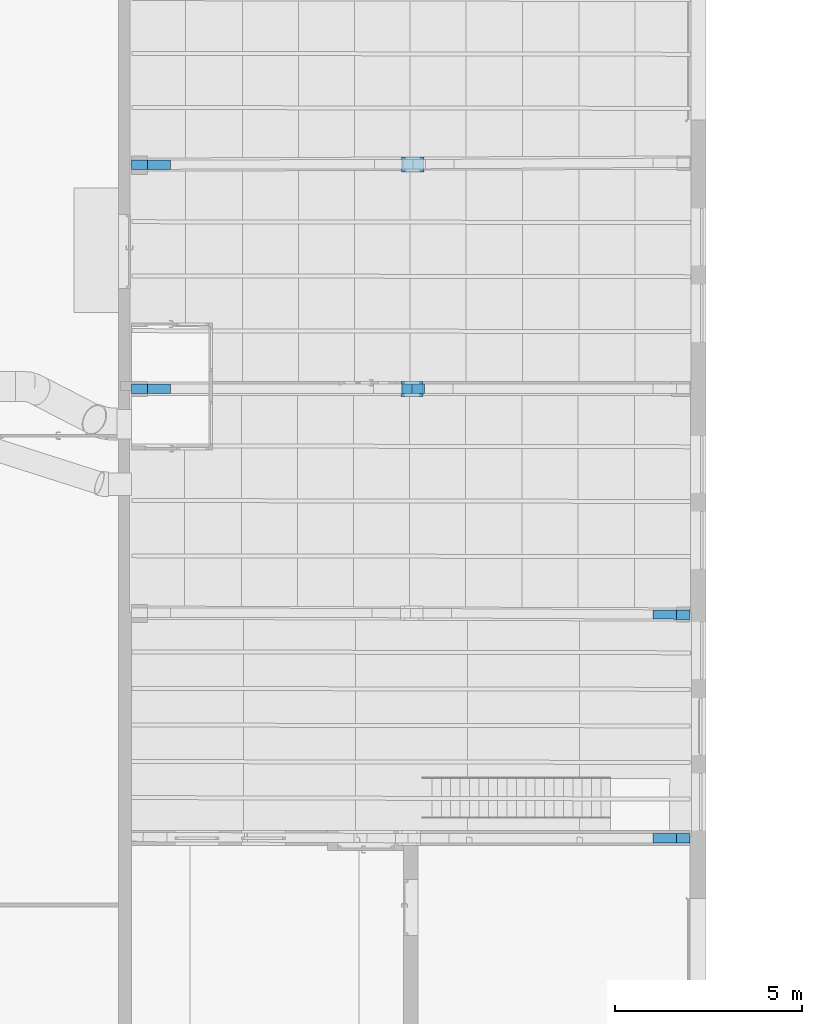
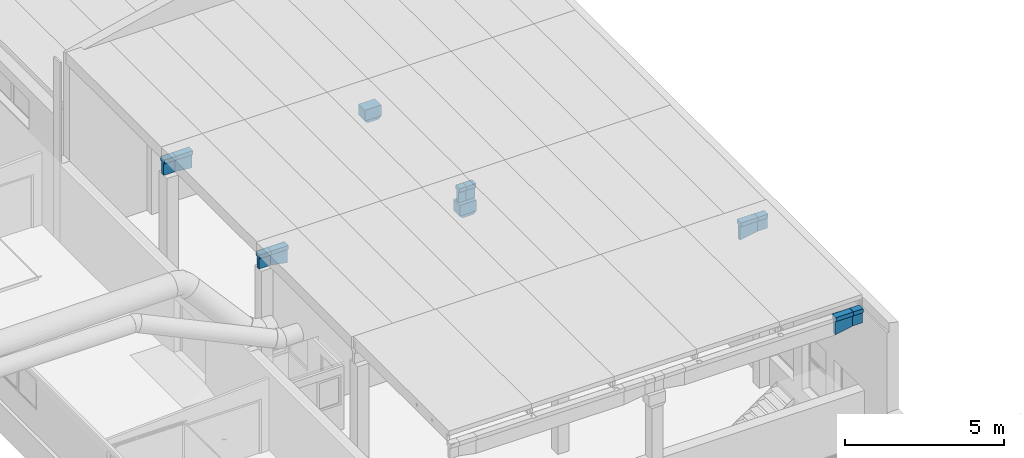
# One storey, part 221 of 301: 14 building element parts, 7 elements without a shape of their own.
"""IFC2X3 building model written with IfcOpenShell, lengths in millimetres."""

from ifc_helpers import new_model, entity, si_unit, converted_unit, derived_unit, money_unit, direction, frame, origin_with_axes, place, context, subcontext, project, spatial, faceted_brep, material, type_object, element, aggregate, save


model = new_model("IFC2X3")

# Units and contexts
model_context = context("Model", 3, precision=0.01, world=origin_with_axes(), true_north=direction((0.0, 1.0)))
body_context = subcontext(model_context, "Body", "Model", "MODEL_VIEW")
ifc_project = project(units=[si_unit("LENGTHUNIT", "METRE", prefix="MILLI"), si_unit("AREAUNIT", "SQUARE_METRE"), si_unit("VOLUMEUNIT", "CUBIC_METRE"), converted_unit("PLANEANGLEUNIT", "DEGREE", entity("IfcPlaneAngleMeasure", 0.0174532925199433), si_unit("PLANEANGLEUNIT", "RADIAN"), dimensions=[0, 0, 0, 0, 0, 0, 0]), money_unit("EUR"), converted_unit("TIMEUNIT", "Year", entity("IfcTimeMeasure", 31557600.0), si_unit("TIMEUNIT", "SECOND"), dimensions=[0, 0, 1, 0, 0, 0, 0]), si_unit("MASSUNIT", "GRAM", prefix="KILO"), si_unit("THERMODYNAMICTEMPERATUREUNIT", "DEGREE_CELSIUS"), si_unit("LUMINOUSINTENSITYUNIT", "LUMEN"), si_unit("ENERGYUNIT", "JOULE", prefix="MEGA"), derived_unit("THERMALCONDUCTANCEUNIT", [(si_unit("POWERUNIT", "WATT"), 1), (si_unit("LENGTHUNIT", "METRE"), -1), (si_unit("THERMODYNAMICTEMPERATUREUNIT", "KELVIN"), -1)]), derived_unit("SPECIFICHEATCAPACITYUNIT", [(si_unit("ENERGYUNIT", "JOULE"), 1), (si_unit("MASSUNIT", "GRAM", prefix="KILO"), -1), (si_unit("THERMODYNAMICTEMPERATUREUNIT", "KELVIN"), -1)]), derived_unit("MASSDENSITYUNIT", [(si_unit("MASSUNIT", "GRAM", prefix="KILO"), 1), (si_unit("VOLUMEUNIT", "CUBIC_METRE"), -1)])], contexts=[model_context])

# Site, building, storey
site_placement = place(None, frame((0.0, 0.0, 8650.0), z_axis=(0.0, 0.0, 1.0), x_axis=(1.0, 0.0, 0.0)))
site = spatial("IfcSite", under=ifc_project, at=site_placement, Name="43301:001:0844", CompositionType="ELEMENT")
building_placement = place(site_placement, origin_with_axes())
building = spatial("IfcBuilding", under=site, at=building_placement, Name="Kuressaare Ametikooli tuulikute mehaanikute õppekorpus", CompositionType="ELEMENT")
storey_placement = place(building_placement, origin_with_axes())
storey = spatial("IfcBuildingStorey", under=building, at=storey_placement, Name="1.korrus", CompositionType="ELEMENT", Elevation=0.0)

# Column, building element parts
column_type = type_object("IfcColumnType", Name="Various Structures - 3 Segments - 600 x 400 x 5950 (5433+102+415)", PredefinedType="NOTDEFINED")
column_1_placement = place(storey_placement, frame((95771.85418875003, 50085.18157357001, 130.0), z_axis=(0.0, 0.0, 1.0), x_axis=(1.0, 0.0, 0.0)))
column_1 = element("IfcColumn", 1, at=column_1_placement, inside=storey, type_object=column_type)
ifc_material_1 = material(Name="GENEERILINE - KONSTRUKTRIOON")
building_element_part_1_placement = place(column_1_placement, origin_with_axes())
building_element_part_1 = element("IfcBuildingElementPart", 2, at=building_element_part_1_placement, material=ifc_material_1, Name="GENEERILINE - KONSTRUKTRIOON", context=body_context, shape_type="Brep", body=[
    faceted_brep([(299.9999999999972, -200.0000000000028, 5535.0), (-299.9999999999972, -200.0000000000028, 5535.0), (-200.0000000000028, -200.0000000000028, 5432.979557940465), (200.0000000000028, -200.0000000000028, 5432.979557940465), (299.9999999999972, 200.0000000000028, 5535.0), (-299.9999999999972, 200.0000000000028, 5535.0), (-200.0000000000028, 200.0000000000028, 5432.979557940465), (200.0000000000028, 200.0000000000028, 5432.979557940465)], [[[0, 1, 2, 3]], [[4, 5, 1, 0]], [[1, 5, 6, 2]], [[7, 3, 2, 6]], [[4, 0, 3, 7]], [[5, 4, 7, 6]]]),
])
building_element_part_2_placement = place(column_1_placement, origin_with_axes())
building_element_part_2 = element("IfcBuildingElementPart", 3, at=building_element_part_2_placement, material=ifc_material_1, Name="GENEERILINE - KONSTRUKTRIOON", context=body_context, shape_type="Brep", body=[
    faceted_brep([(-299.9999999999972, -200.0000000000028, 5950.0), (-299.9999999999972, -200.0000000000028, 5535.0), (299.9999999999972, -200.0000000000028, 5535.0), (299.9999999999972, -200.0000000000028, 5950.0), (-299.9999999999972, 200.0000000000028, 5950.0), (-299.9999999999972, 200.0000000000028, 5535.0), (299.9999999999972, 200.0000000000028, 5535.0), (299.9999999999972, 200.0000000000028, 5950.0)], [[[0, 1, 2, 3]], [[4, 5, 1, 0]], [[2, 1, 5, 6]], [[3, 2, 6, 7]], [[4, 0, 3, 7]], [[7, 6, 5, 4]]]),
])
aggregate(column_1, [building_element_part_1, building_element_part_2])

column_2_placement = place(storey_placement, frame((95793.59130859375, 56096.24933209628, 130.0), z_axis=(0.0, 0.0, 1.0), x_axis=(1.0, 0.0, 0.0)))
column_2 = element("IfcColumn", 4, at=column_2_placement, inside=storey, type_object=column_type)
building_element_part_3_placement = place(column_2_placement, origin_with_axes())
building_element_part_3 = element("IfcBuildingElementPart", 5, at=building_element_part_3_placement, material=ifc_material_1, Name="GENEERILINE - KONSTRUKTRIOON", context=body_context, shape_type="Brep", body=[
    faceted_brep([(299.9999999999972, -200.0000000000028, 5535.0), (-299.9999999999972, -200.0000000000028, 5535.0), (-200.0000000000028, -200.0000000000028, 5432.979557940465), (200.0000000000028, -200.0000000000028, 5432.979557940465), (299.9999999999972, 200.0000000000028, 5535.0), (-299.9999999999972, 200.0000000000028, 5535.0), (-200.0000000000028, 200.0000000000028, 5432.979557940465), (200.0000000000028, 200.0000000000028, 5432.979557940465)], [[[0, 1, 2, 3]], [[4, 5, 1, 0]], [[1, 5, 6, 2]], [[7, 3, 2, 6]], [[4, 0, 3, 7]], [[5, 4, 7, 6]]]),
])
building_element_part_4_placement = place(column_2_placement, origin_with_axes())
building_element_part_4 = element("IfcBuildingElementPart", 6, at=building_element_part_4_placement, material=ifc_material_1, Name="GENEERILINE - KONSTRUKTRIOON", context=body_context, shape_type="Brep", body=[
    faceted_brep([(-299.9999999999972, -200.0000000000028, 5950.0), (-299.9999999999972, -200.0000000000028, 5535.0), (299.9999999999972, -200.0000000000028, 5535.0), (299.9999999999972, -200.0000000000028, 5950.0), (-299.9999999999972, 200.0000000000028, 5950.0), (-299.9999999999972, 200.0000000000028, 5535.0), (299.9999999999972, 200.0000000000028, 5535.0), (299.9999999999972, 200.0000000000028, 5950.0)], [[[0, 1, 2, 3]], [[4, 5, 1, 0]], [[2, 1, 5, 6]], [[3, 2, 6, 7]], [[4, 0, 3, 7]], [[7, 6, 5, 4]]]),
])
aggregate(column_2, [building_element_part_3, building_element_part_4])

# Beam, building element parts
beam_type_1 = type_object("IfcBeamType", Name="Various Structures - 5 Segments - 250 x 700 x 7499 (338+766+5404+631+361)", PredefinedType="NOTDEFINED")
beam_1_placement = place(storey_placement, frame((95728.83666082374, 44073.08587643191, 6660.0), z_axis=(0.0, 0.0, 1.0), x_axis=(-0.005544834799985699, -0.9999846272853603, 0.0)))
beam_1 = element("IfcBeam", 7, at=beam_1_placement, inside=storey, type_object=beam_type_1)
ifc_material_2 = material(Name="Raudbetoon")
building_element_part_5_placement = place(beam_1_placement, origin_with_axes())
building_element_part_5 = element("IfcBuildingElementPart", 8, at=building_element_part_5_placement, material=ifc_material_2, Name="Raudbetoon", context=body_context, shape_type="Brep", body=[
    faceted_brep([(-125.0052048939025, 6665.076092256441, 0.0), (-125.0050883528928, 6507.404536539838, 0.0), (-111.5554368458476, 6507.404536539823, 0.0), (-112.9145778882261, 7138.090759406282, 0.0), (-125.0055545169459, 7138.090759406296, 0.0), (-125.0054379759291, 6980.419203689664, 0.0), (-125.004935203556, 6507.404536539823, -75.00000000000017), (107.6036162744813, 6507.404536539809, 0.0), (107.6036036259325, 6507.404536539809, -4.176709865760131), (-111.5554241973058, 6507.404536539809, -4.176709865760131), (-125.0047820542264, 6507.404536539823, -150.0000000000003), (-65.00000000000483, 6507.404536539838, -164.4011476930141), (-65.00000000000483, 6507.404536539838, -700.0000000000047), (64.99999999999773, 6507.404536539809, -700.0000000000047), (64.99999999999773, 6507.404536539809, -164.4011476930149), (125.0047820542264, 6507.404536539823, -150.0000000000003), (125.004935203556, 6507.404536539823, -75.00000000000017), (125.0050883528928, 6507.404536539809, 0.0), (-112.9145652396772, 7138.090759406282, -4.176709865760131), (106.244462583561, 7138.090759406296, -4.176709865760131), (106.244475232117, 7138.090759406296, 0.0), (125.0055545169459, 7138.090759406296, 0.0), (125.0054185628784, 7138.09075940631, -75.00000000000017), (125.0052826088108, 7138.09075940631, -150.0000000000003), (64.99999999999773, 7138.090759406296, -164.4012678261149), (64.99999999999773, 7138.090759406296, -580.0000001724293), (-64.99999999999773, 7138.090759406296, -580.0000001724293), (-64.99999999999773, 7138.090759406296, -164.4012678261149), (-125.0052826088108, 7138.090759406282, -150.0000000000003), (-125.0054185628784, 7138.090759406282, -75.00000000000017), (-125.0051768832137, 6822.747647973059, -75.00000000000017), (-125.0049071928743, 6665.076092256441, -150.0000000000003), (-125.00515747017, 6980.419203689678, -150.0000000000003), (125.0051574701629, 6980.419203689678, -150.0000000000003), (125.0049071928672, 6665.076092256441, -150.0000000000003), (125.0052048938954, 6665.076092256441, 0.0), (125.0054379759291, 6980.419203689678, 0.0), (125.0051768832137, 6822.747647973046, -75.00000000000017)], [[[0, 1, 2, 3, 4, 5]], [[1, 0, 6]], [[7, 8, 9, 2, 1, 6, 10, 11, 12, 13, 14, 15, 16, 17]], [[2, 9, 18, 3]], [[3, 18, 19, 20, 21, 22, 23, 24, 25, 26, 27, 28, 29, 4]], [[5, 4, 29]], [[0, 5, 30]], [[0, 30, 31, 6]], [[19, 8, 7, 20]], [[9, 8, 19, 18]], [[10, 6, 31]], [[32, 28, 27, 11, 10, 31]], [[11, 27, 26, 12]], [[13, 12, 26, 25]], [[13, 25, 24, 14]], [[14, 24, 23, 33, 34, 15]], [[15, 34, 16]], [[17, 16, 35]], [[36, 21, 20, 7, 17, 35]], [[36, 22, 21]], [[33, 23, 22]], [[32, 29, 28]], [[5, 29, 32, 30]], [[31, 30, 32]], [[34, 33, 37]], [[34, 37, 35, 16]], [[35, 37, 36]], [[33, 22, 36, 37]]]),
])
building_element_part_6_placement = place(beam_1_placement, origin_with_axes())
building_element_part_6 = element("IfcBuildingElementPart", 9, at=building_element_part_6_placement, material=ifc_material_2, Name="Raudbetoon", context=body_context, shape_type="Brep", body=[
    faceted_brep([(-112.9145778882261, 7138.090759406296, 0.0), (-113.6905349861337, 7498.160418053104, 0.0), (-125.0055545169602, 7498.097677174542, 0.0), (-125.0055545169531, 7138.09075940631, 0.0), (-112.9145652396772, 7138.090759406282, -4.176709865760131), (-113.6905223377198, 7498.160418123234, -4.176709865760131), (-65.00000000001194, 7498.430403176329, -164.4012678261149), (-125.005282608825, 7498.097678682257, -150.0000000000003), (4.796163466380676e-09, 7498.790822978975, -4.176709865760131), (3.588240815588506e-09, 7498.790822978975, -580.0000000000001), (-65.00000000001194, 7498.430403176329, -580.0000000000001), (-125.0052826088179, 7138.090759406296, -150.0000000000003), (106.244475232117, 7138.090759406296, 0.0), (106.244462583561, 7138.090759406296, -4.176709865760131), (-65.00000000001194, 7138.09075940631, -164.4012678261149), (-65.00000000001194, 7138.09075940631, -580.0000000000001), (64.99999999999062, 7138.090759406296, -580.0000000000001), (64.99999999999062, 7138.090759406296, -164.4012678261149), (125.0052826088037, 7138.09075940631, -150.0000000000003), (125.0055545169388, 7138.090759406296, 0.0), (105.4671469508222, 7498.790822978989, -4.176709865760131), (64.99999999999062, 7498.790822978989, -580.0000000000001), (105.4671595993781, 7498.790822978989, 0.0), (125.0055545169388, 7498.790822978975, 0.0), (125.0052826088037, 7498.790822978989, -150.0000000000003), (64.99999999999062, 7498.790822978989, -164.4012678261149)], [[[0, 1, 2, 3]], [[4, 5, 1, 0]], [[6, 7, 2, 1, 5, 8, 9, 10]], [[3, 2, 7, 11]], [[12, 13, 4, 0, 3, 11, 14, 15, 16, 17, 18, 19]], [[20, 8, 5, 4, 13]], [[11, 7, 6, 14]], [[21, 9, 8, 20, 22, 23, 24, 25]], [[15, 10, 9, 21, 16]], [[14, 6, 10, 15]], [[20, 13, 12, 22]], [[25, 17, 16, 21]], [[24, 18, 17, 25]], [[23, 19, 18, 24]], [[19, 23, 22, 12]]]),
])
aggregate(beam_1, [building_element_part_5, building_element_part_6])

beam_type_2 = type_object("IfcBeamType", Name="Various Structures - 5 Segments - 250 x 700 x 7563 (338+766+5468+631+361)", PredefinedType="NOTDEFINED")
beam_2_placement = place(storey_placement, frame((95664.04856966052, 38039.92828517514, 6660.0), z_axis=(0.0, 0.0, 1.0), x_axis=(0.0, -1.0, 0.0)))
beam_2 = element("IfcBeam", 10, at=beam_2_placement, inside=storey, type_object=beam_type_2)
building_element_part_7_placement = place(beam_2_placement, origin_with_axes())
building_element_part_7 = element("IfcBuildingElementPart", 11, at=building_element_part_7_placement, material=ifc_material_2, Name="Raudbetoon", context=body_context, shape_type="Brep", body=[
    faceted_brep([(64.99999999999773, 7202.763573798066, -164.4012678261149), (64.99999999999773, 7202.763573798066, -580.0000000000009), (-64.99999999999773, 7202.763573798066, -580.0000000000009), (-64.99999999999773, 7202.763573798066, -164.4012678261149), (-125.0052826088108, 7202.763573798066, -150.0000000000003), (-125.0054185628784, 7202.763573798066, -75.00000000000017), (-125.0055545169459, 7202.763573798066, 0.0), (-110.366298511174, 7202.763573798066, 0.0), (-110.3662831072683, 7202.763573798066, -5.086558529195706), (108.79275716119, 7202.763573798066, -5.086558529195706), (108.7927725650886, 7202.763573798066, 0.0), (125.0055545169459, 7202.763573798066, 0.0), (125.0054185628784, 7202.763573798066, -75.00000000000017), (125.0052826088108, 7202.763573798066, -150.0000000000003), (64.99999999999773, 6572.077350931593, -700.0000000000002), (64.99999999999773, 7199.287448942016, -580.0000000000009), (64.99999999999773, 6572.077350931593, -164.4011476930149), (-64.99999999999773, 7199.287448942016, -580.0000000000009), (-64.99999999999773, 6572.077350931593, -700.0000000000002), (-64.99999999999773, 6572.077350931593, -164.4011476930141), (-125.0049071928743, 6729.748906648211, -150.0000000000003), (-125.0051574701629, 7045.092018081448, -150.0000000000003), (-125.0047820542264, 6572.077350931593, -150.0000000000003), (-125.0054379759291, 7045.092018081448, 0.0), (-125.0052048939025, 6729.748906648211, 0.0), (-125.0050883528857, 6572.077350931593, 0.0), (-111.741958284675, 6572.077350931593, 0.0), (-111.7419428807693, 6572.077350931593, -5.086558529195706), (107.4170973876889, 6572.077350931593, -5.086558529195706), (107.4171127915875, 6572.077350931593, 0.0), (125.0052048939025, 6729.748906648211, 0.0), (125.0054379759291, 7045.092018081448, 0.0), (125.0050883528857, 6572.077350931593, 0.0), (125.0051574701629, 7045.092018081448, -150.0000000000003), (125.0047820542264, 6572.077350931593, -150.0000000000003), (125.0049071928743, 6729.748906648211, -150.0000000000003), (125.004935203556, 6572.077350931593, -75.00000000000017), (-125.004935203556, 6572.077350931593, -75.00000000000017), (-125.0051768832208, 6887.420462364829, -75.00000000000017), (125.0051768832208, 6887.420462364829, -75.00000000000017)], [[[0, 1, 2, 3, 4, 5, 6, 7, 8, 9, 10, 11, 12, 13]], [[14, 15, 1, 0, 16]], [[15, 17, 2, 1]], [[2, 17, 18, 19, 3]], [[20, 21, 4, 3, 19, 22]], [[4, 21, 5]], [[5, 23, 6]], [[23, 24, 25, 26, 7, 6]], [[7, 26, 27, 8]], [[8, 27, 28, 9]], [[10, 9, 28, 29]], [[30, 31, 11, 10, 29, 32]], [[11, 31, 12]], [[12, 33, 13]], [[34, 16, 0, 13, 33, 35]], [[14, 18, 17, 15]], [[19, 18, 14, 16, 34, 36, 32, 29, 28, 27, 26, 25, 37, 22]], [[21, 20, 38]], [[20, 22, 37]], [[38, 23, 5, 21]], [[38, 24, 23]], [[37, 25, 24]], [[31, 30, 39]], [[30, 32, 36]], [[39, 33, 12, 31]], [[39, 35, 33]], [[36, 34, 35]], [[37, 24, 38, 20]], [[36, 35, 39, 30]]]),
])
building_element_part_8_placement = place(beam_2_placement, origin_with_axes())
building_element_part_8 = element("IfcBuildingElementPart", 12, at=building_element_part_8_placement, material=ifc_material_2, Name="Raudbetoon", context=body_context, shape_type="Brep", body=[
    faceted_brep([(-125.0055545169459, 7563.463637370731, 0.0), (4.781952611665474e-09, 7563.463637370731, 0.0), (-7.176481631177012e-10, 7563.463637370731, -5.086558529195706), (-35.95914207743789, 7563.463637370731, -5.086558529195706), (-35.95914207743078, 7563.463637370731, -25.00013400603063), (125.0055091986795, 7563.463637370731, -25.00013400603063), (125.0052826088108, 7563.463637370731, -150.0000000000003), (64.99999999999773, 7563.463637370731, -164.4012678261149), (64.99999999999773, 7563.463637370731, -580.0000000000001), (-64.99999999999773, 7563.463637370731, -580.0000000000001), (-64.99999999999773, 7563.463637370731, -164.4012678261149), (-125.0052826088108, 7563.463637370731, -150.0000000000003), (109.5276737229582, 7539.687022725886, 0.0), (109.5790141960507, 7563.224622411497, 0.0), (-125.0055545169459, 7202.763573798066, 0.0), (125.0055545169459, 7202.763573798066, 0.0), (125.0055545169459, 7539.779091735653, 0.0), (109.5789987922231, 7563.224622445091, -5.086558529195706), (-35.81732643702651, 7539.622764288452, -5.086558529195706), (109.5294039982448, 7540.487348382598, -5.086558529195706), (-35.83596330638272, 7542.755840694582, -25.00013400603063), (125.0055091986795, 7543.712594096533, -25.00013400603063), (125.0052826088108, 7202.763573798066, -150.0000000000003), (64.99999999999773, 7202.763573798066, -164.4012678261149), (64.99999999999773, 7202.763573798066, -580.0000000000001), (-64.99999999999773, 7202.763573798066, -580.0000000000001), (-64.99999999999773, 7202.763573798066, -164.4012678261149), (-125.0052826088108, 7202.763573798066, -150.0000000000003)], [[[0, 1, 2, 3, 4, 5, 6, 7, 8, 9, 10, 11]], [[12, 13, 1, 0, 14, 15, 16]], [[17, 2, 1, 13]], [[18, 3, 2, 17, 19]], [[20, 4, 3, 18]], [[21, 5, 4, 20]], [[5, 21, 16, 15, 22, 6]], [[22, 23, 7, 6]], [[23, 24, 8, 7]], [[24, 25, 9, 8]], [[25, 26, 10, 9]], [[26, 27, 11, 10]], [[27, 14, 0, 11]], [[17, 13, 12, 19]], [[26, 25, 24, 23, 22, 15, 14, 27]], [[12, 16, 21, 20, 18, 19]]]),
])
aggregate(beam_2, [building_element_part_7, building_element_part_8])

# Beam, building element part
beam_type_3 = type_object("IfcBeamType", Name="Various Structures - 5 Segments - 250 x 700 x 7456 (338+766+5361+631+361)", PredefinedType="NOTDEFINED")
beam_3_placement = place(storey_placement, frame((95771.85418875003, 50085.18157357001, 6660.0), z_axis=(0.0, 0.0, 1.0), x_axis=(2.364312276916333e-05, -0.9999999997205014, 0.0)))
beam_3 = element("IfcBeam", 13, at=beam_3_placement, inside=storey, type_object=beam_type_3)
building_element_part_9_placement = place(beam_3_placement, origin_with_axes())
building_element_part_9 = element("IfcBuildingElementPart", 14, at=building_element_part_9_placement, material=ifc_material_2, Name="Raudbetoon", context=body_context, shape_type="Brep", body=[
    faceted_brep([(-125.0055545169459, 0.0, 0.0), (-111.8219075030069, 0.0, 0.0), (-111.719623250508, 337.7568168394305, 0.0), (-125.0055545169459, 337.7568168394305, 0.0), (107.3366366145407, 0.0, -5.000209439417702), (-111.8218923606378, 0.0, -5.000209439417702), (-125.0052826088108, 0.0, -150.0000000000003), (-65.00000000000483, 0.0, -164.4012678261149), (-65.00000000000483, 0.0, -579.8231697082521), (64.99999999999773, 0.0, -579.8231697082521), (64.99999999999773, 0.0, -164.4012678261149), (125.0052826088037, 0.0, -150.0000000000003), (125.0055545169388, 0.0, 0.0), (107.3366517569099, 0.0, 0.0), (-111.7196081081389, 337.7568168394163, -5.000209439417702), (107.4389208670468, 337.7568168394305, -5.000209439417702), (107.4389360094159, 337.7568168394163, 0.0), (125.0055545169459, 337.7568168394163, 0.0), (125.0052826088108, 337.7568168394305, -150.0000000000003), (64.99999999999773, 337.7568168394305, -164.4012678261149), (64.99999999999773, 337.7568168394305, -579.8231697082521), (-65.00000000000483, 337.7568168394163, -579.8231697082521), (-65.00000000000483, 337.7568168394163, -164.4012678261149), (-125.0052826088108, 337.7568168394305, -150.0000000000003)], [[[0, 1, 2, 3]], [[4, 5, 1, 0, 6, 7, 8, 9, 10, 11, 12, 13]], [[5, 14, 2, 1]], [[14, 15, 16, 17, 18, 19, 20, 21, 22, 23, 3, 2]], [[6, 0, 3, 23]], [[4, 15, 14, 5]], [[7, 6, 23, 22]], [[8, 7, 22, 21]], [[9, 8, 21, 20]], [[10, 9, 20, 19]], [[11, 10, 19, 18]], [[12, 11, 18, 17]], [[17, 16, 13, 12]], [[4, 13, 16, 15]]]),
])
aggregate(beam_3, [building_element_part_9])

# Beam, building element parts
beam_type_4 = type_object("IfcBeamType", Name="Various Structures - 5 Segments - 250 x 700 x 7513 (262+767+5443+621+419)", PredefinedType="NOTDEFINED")
beam_4_placement = place(storey_placement, frame((95771.85418875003, 50085.18157357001, 6660.0), z_axis=(0.0, 0.0, 1.0), x_axis=(0.0006351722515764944, 0.9999997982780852, 0.0)))
beam_4 = element("IfcBeam", 15, at=beam_4_placement, inside=storey, type_object=beam_type_4)
building_element_part_10_placement = place(beam_4_placement, origin_with_axes())
building_element_part_10 = element("IfcBuildingElementPart", 16, at=building_element_part_10_placement, material=ifc_material_2, Name="Raudbetoon", context=body_context, shape_type="Brep", body=[
    faceted_brep([(125.0055545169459, 261.7777961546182, 0.0), (111.7287214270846, 261.7777961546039, 0.0), (111.82190946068, 0.0, 0.0), (125.0055545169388, 0.0, 0.0), (-107.4298265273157, 261.7777961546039, -5.000209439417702), (111.7287062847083, 261.7777961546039, -5.000209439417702), (125.0052826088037, 261.7777961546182, -150.0000000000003), (64.99999999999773, 261.7777961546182, -164.4012678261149), (64.99999999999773, 261.7777961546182, -579.8231697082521), (-65.00000000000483, 261.7777961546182, -579.8231697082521), (-64.99999999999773, 261.7777961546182, -164.4012678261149), (-125.0052826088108, 261.7777961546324, -150.0000000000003), (-125.0055545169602, 261.7777961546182, 0.0), (-107.4298416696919, 261.7777961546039, 0.0), (111.821894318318, 0.0, -5.000209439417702), (-107.3366384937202, 0.0, -5.000209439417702), (-107.3366536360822, 0.0, 0.0), (-125.0055545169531, 0.0, 0.0), (-125.0052826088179, 0.0, -150.0000000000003), (-65.00000000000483, 0.0, -164.4012678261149), (-65.00000000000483, 0.0, -579.8231697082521), (64.99999999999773, 0.0, -579.8231697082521), (64.99999999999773, 0.0, -164.4012678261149), (125.0052826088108, 0.0, -150.0000000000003)], [[[0, 1, 2, 3]], [[4, 5, 1, 0, 6, 7, 8, 9, 10, 11, 12, 13]], [[5, 14, 2, 1]], [[14, 15, 16, 17, 18, 19, 20, 21, 22, 23, 3, 2]], [[3, 23, 6, 0]], [[4, 15, 14, 5]], [[23, 22, 7, 6]], [[22, 21, 8, 7]], [[21, 20, 9, 8]], [[20, 19, 10, 9]], [[19, 18, 11, 10]], [[18, 17, 12, 11]], [[17, 16, 13, 12]], [[4, 13, 16, 15]]]),
])
building_element_part_11_placement = place(beam_4_placement, origin_with_axes())
building_element_part_11 = element("IfcBuildingElementPart", 17, at=building_element_part_11_placement, material=ifc_material_2, Name="Raudbetoon", context=body_context, shape_type="Brep", body=[
    faceted_brep([(-64.99999999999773, 7093.794226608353, -580.000000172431), (-64.99999999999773, 7093.794226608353, -164.4012678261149), (-125.0052826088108, 7093.794226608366, -150.0000000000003), (-125.0054185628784, 7093.794226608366, -75.00000000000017), (-125.0055545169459, 7093.794226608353, 0.0), (-109.8619126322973, 7093.794226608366, 0.0), (-109.861897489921, 7093.794226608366, -5.000209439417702), (109.296635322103, 7093.794226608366, -5.000209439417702), (109.2966504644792, 7093.794226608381, 0.0), (125.0055545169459, 7093.794226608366, 0.0), (125.0054185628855, 7093.794226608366, -75.00000000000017), (125.0052826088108, 7093.794226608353, -150.0000000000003), (64.99999999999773, 7093.794226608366, -164.4012678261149), (64.99999999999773, 7093.794226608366, -580.000000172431), (-65.00000000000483, 6472.408602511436, -164.4011476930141), (-64.99999999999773, 7093.05788654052, -580.0000000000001), (-64.99999999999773, 7093.05788654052, -580.1421998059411), (-65.00000000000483, 6472.408602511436, -700.0000000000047), (-125.0051574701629, 6938.447820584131, -150.0000000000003), (-125.0047820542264, 6472.40860251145, -150.0000000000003), (-125.0049071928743, 6627.755008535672, -150.0000000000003), (-125.0054379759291, 6938.447820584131, 0.0), (-109.6407108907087, 6472.40860251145, 0.0), (-125.0052048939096, 6627.755008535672, 0.0), (-125.0050883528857, 6472.408602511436, 0.0), (-109.6406957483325, 6472.408602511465, -5.000209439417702), (109.5178370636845, 6472.40860251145, -5.000209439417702), (109.5178522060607, 6472.40860251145, 0.0), (125.0054379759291, 6938.447820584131, 0.0), (125.0050883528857, 6472.40860251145, 0.0), (125.0052048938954, 6627.755008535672, 0.0), (125.0051574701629, 6938.447820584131, -150.0000000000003), (64.99999999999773, 6472.40860251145, -164.4011476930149), (125.0049071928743, 6627.755008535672, -150.0000000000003), (125.0047820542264, 6472.40860251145, -150.0000000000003), (64.99999999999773, 7093.140366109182, -579.9998225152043), (64.99999999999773, 6472.40860251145, -700.0000000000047), (64.99999999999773, 6472.436987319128, -699.994518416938), (-54.50532871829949, 7093.064459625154, -579.9998225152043), (-54.50532877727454, 7093.064552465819, -580.1407353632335), (-54.11110526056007, 6472.408602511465, -700.0000000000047), (-125.0049352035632, 6472.408602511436, -75.00000000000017), (-54.11110526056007, 6472.40860251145, -699.9853799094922), (64.95290785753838, 6472.40860251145, -700.000000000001), (125.004935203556, 6472.40860251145, -75.00000000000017), (-125.0051768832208, 6783.101414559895, -75.00000000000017), (125.0051768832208, 6783.101414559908, -75.00000000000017)], [[[0, 1, 2, 3, 4, 5, 6, 7, 8, 9, 10, 11, 12, 13]], [[14, 1, 0, 15, 16, 17]], [[18, 2, 1, 14, 19, 20]], [[18, 3, 2]], [[21, 4, 3]], [[22, 5, 4, 21, 23, 24]], [[25, 6, 5, 22]], [[26, 7, 6, 25]], [[27, 8, 7, 26]], [[28, 9, 8, 27, 29, 30]], [[28, 10, 9]], [[31, 11, 10]], [[32, 12, 11, 31, 33, 34]], [[35, 13, 12, 32, 36, 37]], [[15, 0, 13, 35, 38]], [[38, 39, 16, 15]], [[17, 16, 39, 40]], [[24, 41, 19, 14, 17, 40, 42, 43, 36, 32, 34, 44, 29, 27, 26, 25, 22]], [[41, 20, 19]], [[18, 20, 45]], [[21, 3, 18, 45]], [[21, 45, 23]], [[41, 24, 23]], [[30, 29, 44]], [[46, 28, 30]], [[46, 31, 10, 28]], [[46, 33, 31]], [[33, 44, 34]], [[37, 36, 43]], [[42, 38, 35, 37, 43]], [[42, 40, 39, 38]], [[45, 20, 41, 23]], [[44, 33, 46, 30]]]),
])
building_element_part_12_placement = place(beam_4_placement, origin_with_axes())
building_element_part_12 = element("IfcBuildingElementPart", 18, at=building_element_part_12_placement, material=ifc_material_2, Name="Raudbetoon", context=body_context, shape_type="Brep", body=[
    faceted_brep([(125.0052826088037, 7093.794226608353, -150.0000000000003), (125.0052826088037, 7513.178657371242, -150.0000000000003), (125.0055545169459, 7513.17865754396, 0.0), (125.0055545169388, 7093.794226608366, 0.0), (64.99999999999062, 7093.794226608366, -164.4012678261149), (64.99999999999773, 7513.140543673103, -164.4012678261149), (-23.7004440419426, 7513.084203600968, -5.000209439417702), (-23.70044404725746, 7513.084203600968, 0.0), (64.99999999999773, 7513.140543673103, -580.0000000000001), (-64.99999999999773, 7513.057971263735, -580.0000000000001), (-64.99999999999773, 7513.057971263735, -164.4012678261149), (-125.0052826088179, 7513.019857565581, -150.0000000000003), (-125.0055545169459, 7513.019857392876, 0.0), (-110.0111525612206, 7513.029381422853, 0.0), (-110.0111374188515, 7513.02938143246, -5.000209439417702), (109.1473741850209, 7513.131494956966, 0.0), (109.2966504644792, 7093.794226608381, 0.0), (109.296635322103, 7093.794226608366, -5.000209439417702), (-109.861897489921, 7093.794226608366, -5.000209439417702), (-109.8619126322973, 7093.794226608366, 0.0), (-125.0055545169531, 7093.794226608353, 0.0), (-125.0052826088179, 7093.794226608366, -150.0000000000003), (-65.00000000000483, 7093.794226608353, -164.4012678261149), (-65.00000000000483, 7093.794226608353, -580.0000000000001), (64.99999999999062, 7093.794226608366, -580.0000000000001), (109.1473590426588, 7513.13149495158, -5.000209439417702)], [[[0, 1, 2, 3]], [[4, 5, 1, 0]], [[6, 7, 2, 1, 5, 8, 9, 10, 11, 12, 13, 14]], [[3, 2, 7, 15, 16]], [[16, 17, 18, 19, 20, 21, 22, 23, 24, 4, 0, 3]], [[24, 8, 5, 4]], [[15, 7, 6, 25]], [[23, 9, 8, 24]], [[22, 10, 9, 23]], [[21, 11, 10, 22]], [[20, 12, 11, 21]], [[19, 13, 12, 20]], [[18, 14, 13, 19]], [[25, 6, 14, 18, 17]], [[15, 25, 17, 16]]]),
])
aggregate(beam_4, [building_element_part_10, building_element_part_11, building_element_part_12])

beam_type_5 = type_object("IfcBeamType", Name="Various Structures - 5 Segments - 250 x 700 x 7535 (262+767+5466+621+419)", PredefinedType="NOTDEFINED")
beam_5_placement = place(storey_placement, frame((95793.5361313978, 56107.49431488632, 6659.999999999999), z_axis=(0.0, 0.0, 1.0), x_axis=(-0.001731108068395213, 0.9999985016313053, 0.0)))
beam_5 = element("IfcBeam", 19, at=beam_5_placement, inside=storey, type_object=beam_type_5)
building_element_part_13_placement = place(beam_5_placement, origin_with_axes())
building_element_part_13 = element("IfcBuildingElementPart", 20, at=building_element_part_13_placement, material=ifc_material_2, Name="Raudbetoon", context=body_context, shape_type="Brep", body=[
    faceted_brep([(65.00000000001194, 7114.677822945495, -630.1544991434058), (65.00000000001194, 7114.677822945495, -629.999999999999), (65.00000000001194, 7116.049302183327, -629.999999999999), (65.00000000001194, 7116.049302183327, -164.4012678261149), (65.00000000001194, 6494.663678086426, -164.4011476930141), (65.00000000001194, 6494.663678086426, -700.000000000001), (-64.99999999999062, 7114.902867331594, -629.999999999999), (-64.99999999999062, 7114.902867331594, -630.1291475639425), (-64.99999999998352, 7116.049302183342, -629.999999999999), (-64.99999999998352, 7116.049302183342, -164.4012678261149), (-125.0052826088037, 7116.049302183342, -150.0000000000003), (-125.0054185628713, 7116.049302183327, -75.00000000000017), (-125.0055545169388, 7116.049302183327, 0.0), (-108.7966842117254, 7116.049302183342, 0.0), (-108.7966690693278, 7116.049302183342, -5.000214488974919), (110.3622327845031, 7116.049302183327, -5.000214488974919), (110.362247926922, 7116.049302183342, 0.0), (125.0055545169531, 7116.049302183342, 0.0), (125.0054185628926, 7116.049302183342, -75.00000000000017), (125.0052826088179, 7116.049302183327, -150.0000000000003), (125.00515747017, 6960.702896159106, -150.0000000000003), (125.0049071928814, 6650.010084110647, -150.0000000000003), (125.0047820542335, 6494.663678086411, -150.0000000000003), (125.0050883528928, 6494.663678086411, 0.0), (111.5238456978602, 6494.663678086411, 0.0), (111.5238305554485, 6494.663678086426, -5.000214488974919), (-107.6350712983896, 6494.663678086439, -5.000214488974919), (-107.6350864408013, 6494.663678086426, 0.0), (-125.0050883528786, 6494.663678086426, 0.0), (-125.004935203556, 6494.663678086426, -75.00000000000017), (-125.0047820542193, 6494.663678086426, -150.0000000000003), (-64.99999999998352, 6494.663678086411, -164.4011476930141), (-64.99999999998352, 6494.663678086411, -700.000000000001), (125.0049352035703, 6494.663678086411, -75.00000000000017), (-125.0051574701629, 6960.702896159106, -150.0000000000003), (-125.0049071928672, 6650.010084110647, -150.0000000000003), (-125.005437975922, 6960.702896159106, 0.0), (-125.0052048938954, 6650.010084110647, 0.0), (125.0054379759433, 6960.702896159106, 0.0), (125.0052048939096, 6650.010084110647, 0.0), (125.0051768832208, 6805.356490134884, -75.00000000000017), (-125.0051768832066, 6805.356490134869, -75.00000000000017)], [[[0, 1, 2, 3, 4, 5]], [[6, 1, 0, 7]], [[8, 2, 1, 6]], [[3, 2, 8, 9, 10, 11, 12, 13, 14, 15, 16, 17, 18, 19]], [[4, 3, 19, 20, 21, 22]], [[23, 24, 25, 26, 27, 28, 29, 30, 31, 32, 5, 4, 22, 33]], [[32, 7, 0, 5]], [[8, 6, 7, 32, 31, 9]], [[34, 10, 9, 31, 30, 35]], [[34, 11, 10]], [[36, 12, 11]], [[37, 28, 27, 13, 12, 36]], [[26, 14, 13, 27]], [[15, 14, 26, 25]], [[16, 15, 25, 24]], [[38, 17, 16, 24, 23, 39]], [[38, 18, 17]], [[20, 19, 18]], [[21, 20, 40]], [[22, 21, 33]], [[28, 37, 29]], [[30, 29, 35]], [[23, 33, 39]], [[35, 41, 34]], [[36, 11, 34, 41]], [[37, 36, 41]], [[39, 40, 38]], [[20, 18, 38, 40]], [[21, 40, 39, 33]], [[37, 41, 35, 29]]]),
])
building_element_part_14_placement = place(beam_5_placement, origin_with_axes())
building_element_part_14 = element("IfcBuildingElementPart", 21, at=building_element_part_14_placement, material=ifc_material_2, Name="Raudbetoon", context=body_context, shape_type="Brep", body=[
    faceted_brep([(125.0052826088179, 7116.049302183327, -150.0000000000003), (125.0052826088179, 7534.574576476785, -150.0000000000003), (125.0055545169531, 7534.574576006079, 0.0), (125.0055545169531, 7116.049302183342, 0.0), (65.00000000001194, 7116.049302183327, -164.4012678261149), (65.00000000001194, 7534.678452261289, -164.4012678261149), (109.5798055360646, 7534.601279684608, -5.000214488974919), (109.5798206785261, 7534.601279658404, 0.0), (65.00000000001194, 7534.678452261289, -629.999999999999), (-64.99999999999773, 7534.903496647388, -629.999999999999), (-64.99999999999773, 7534.903496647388, -164.4012678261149), (-125.0052826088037, 7535.007372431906, -150.0000000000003), (-125.0055545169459, 7535.007372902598, 0.0), (4.021671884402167e-09, 7534.790974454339, 0.0), (4.021671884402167e-09, 7534.790974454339, -5.000214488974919), (110.362247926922, 7116.049302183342, 0.0), (110.3622327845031, 7116.049302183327, -5.000214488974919), (-108.7966690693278, 7116.049302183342, -5.000214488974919), (-108.7966842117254, 7116.049302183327, 0.0), (-125.0055545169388, 7116.049302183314, 0.0), (-125.0052826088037, 7116.049302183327, -150.0000000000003), (-64.99999999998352, 7116.049302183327, -164.4012678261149), (-64.99999999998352, 7116.049302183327, -629.999999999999), (65.00000000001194, 7116.049302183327, -629.999999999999), (-109.5790831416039, 7534.586130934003, 0.0), (-109.5790679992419, 7534.586130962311, -5.000214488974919)], [[[0, 1, 2, 3]], [[4, 5, 1, 0]], [[6, 7, 2, 1, 5, 8, 9, 10, 11, 12, 13, 14]], [[3, 2, 7, 15]], [[3, 15, 16, 17, 18, 19, 20, 21, 22, 23, 4, 0]], [[23, 8, 5, 4]], [[15, 7, 6, 16]], [[22, 9, 8, 23]], [[21, 10, 9, 22]], [[20, 11, 10, 21]], [[19, 12, 11, 20]], [[24, 13, 12, 19, 18]], [[25, 14, 13, 24]], [[16, 6, 14, 25, 17]], [[17, 25, 24, 18]]]),
])
aggregate(beam_5, [building_element_part_13, building_element_part_14])

save(model, "model.ifc")
